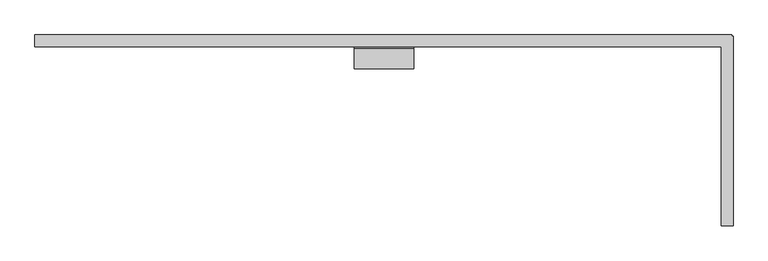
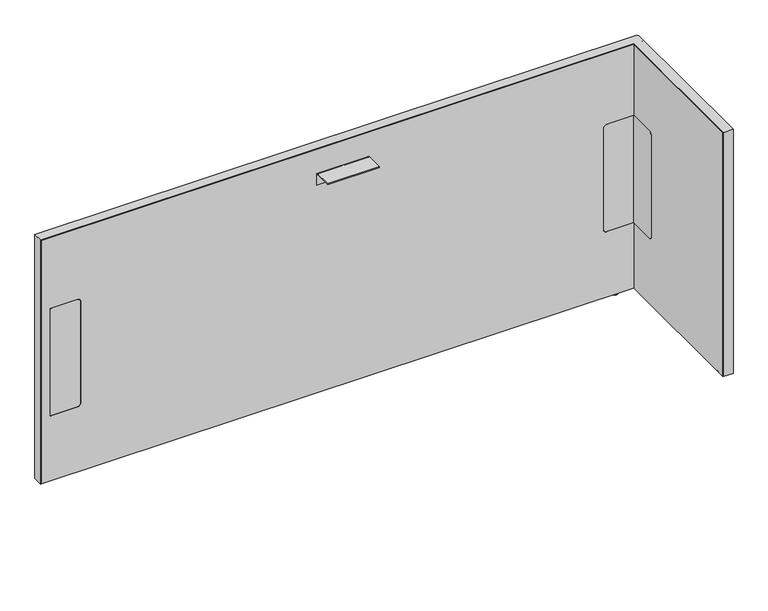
"""IFC4 building model written with IfcOpenShell, lengths in millimetres: furniture geometry, Steelcase - Answer Solution - Boundary Screen - L Return - Single Sided : 30H x 69W."""

import ifcopenshell
import ifcopenshell.guid

model = None  # the IFC model being written
_history = None  # IfcOwnerHistory: only IFC2X3 demands one
_inside = {}  # id of a spatial element -> (the spatial element, [elements in it])
_under = {}  # id of a project, library or spatial element -> (it, [spatial elements below it])
_declared = {}  # id of a project -> (the project, [libraries it declares])
_typed = {}  # id of a type object -> (the type object, [elements of that type])
_made_of = {}  # id of a material, layer set ... -> (it, [elements and type objects made of it])


def new_model(schema):
    """Start an empty IFC model of exactly this schema.

    Asked for "IFC4X3", IfcOpenShell would pick the latest addendum, in which some entities
    have other attributes; the version numbers below select the first issue.
    IFC2X3 requires an IfcOwnerHistory on every rooted entity: one is made here for all.
    """
    global model, _history
    if schema == "IFC4X3":
        model = ifcopenshell.file(schema_version=(4, 3, 0, 0))
    else:
        model = ifcopenshell.file(schema=schema)
    _inside.clear()
    _under.clear()
    _declared.clear()
    _typed.clear()
    _made_of.clear()
    _history = None
    if model.schema == "IFC2X3":
        org = make("IfcOrganization", Name="unknown")
        user = make(
            "IfcPersonAndOrganization",
            ThePerson=make("IfcPerson", FamilyName="unknown"),
            TheOrganization=org,
        )
        app = make(
            "IfcApplication",
            ApplicationDeveloper=org,
            Version="unknown",
            ApplicationFullName="unknown",
            ApplicationIdentifier="unknown",
        )
        _history = make(
            "IfcOwnerHistory",
            OwningUser=user,
            OwningApplication=app,
            ChangeAction="ADDED",
            CreationDate=0,
        )
    return model


def make(cls, **values):
    """One entity of the class cls with the attributes given. An attribute that is None is left unset."""
    return model.create_entity(
        cls, **{name: value for name, value in values.items() if value is not None}
    )


def rooted(cls, **values):
    """An entity with a GlobalId (a new one), such as an element, a storey or a relation."""
    return make(cls, GlobalId=ifcopenshell.guid.new(), OwnerHistory=_history, **values)


def si_unit(unit_type, name, prefix=None):
    """IfcSIUnit, for example si_unit("LENGTHUNIT", "METRE", prefix="MILLI")."""
    return make("IfcSIUnit", UnitType=unit_type, Prefix=prefix, Name=name)


def assignment(units):
    """IfcUnitAssignment: the units of a project."""
    return None if units is None else make("IfcUnitAssignment", Units=units)


def point(xyz):
    """IfcCartesianPoint."""
    return None if xyz is None else make("IfcCartesianPoint", Coordinates=xyz)


def direction(xyz):
    """IfcDirection."""
    return None if xyz is None else make("IfcDirection", DirectionRatios=xyz)


def frame(location, z_axis=None, x_axis=None):
    """IfcAxis2Placement3D, a coordinate frame: its origin and axes. An axis left out is left unset."""
    return make(
        "IfcAxis2Placement3D",
        Location=point(location),
        Axis=direction(z_axis),
        RefDirection=direction(x_axis),
    )


def frame_2d(location, x_axis=None):
    """IfcAxis2Placement2D, a coordinate frame in the plane: its origin and x axis."""
    return make(
        "IfcAxis2Placement2D", Location=point(location), RefDirection=direction(x_axis)
    )


def origin():
    """The frame at (0, 0, 0) with its axes left unset."""
    return frame((0.0, 0.0, 0.0))


def place(relative_to, where):
    """IfcLocalPlacement: puts the frame where relative to a parent placement (None: the world)."""
    return make(
        "IfcLocalPlacement", PlacementRelTo=relative_to, RelativePlacement=where
    )


def context(
    kind, dimensions, precision=None, world=None, true_north=None, identifier=None
):
    """IfcGeometricRepresentationContext, for example the 3D "Model" context."""
    return make(
        "IfcGeometricRepresentationContext",
        ContextIdentifier=identifier,
        ContextType=kind,
        CoordinateSpaceDimension=dimensions,
        Precision=precision,
        WorldCoordinateSystem=world,
        TrueNorth=true_north,
    )


def project(units=None, contexts=None):
    """IfcProject with its units and contexts."""
    return rooted(
        "IfcProject",
        Name="project",
        RepresentationContexts=contexts,
        UnitsInContext=assignment(units),
    )


def spatial(cls, under=None, at=None, **own):
    """A site, building, storey or space (cls), placed at a placement, below another one or the project."""
    s = rooted(cls, ObjectPlacement=at, **own)
    if under is not None:
        _under.setdefault(under.id(), (under, []))[1].append(s)
    return s


def polyline(points):
    """IfcPolyline through the points."""
    return make("IfcPolyline", Points=[point(p) for p in points])


def circle_curve(where, radius):
    """IfcCircle in the frame where."""
    return make("IfcCircle", Position=where, Radius=radius)


def ellipse_curve(where, semi_axis1, semi_axis2):
    """IfcEllipse in the frame where."""
    return make(
        "IfcEllipse", Position=where, SemiAxis1=semi_axis1, SemiAxis2=semi_axis2
    )


def trimmed(basis, trim1, trim2, sense, master):
    """IfcTrimmedCurve: the piece of a basis curve between two trims."""
    return make(
        "IfcTrimmedCurve",
        BasisCurve=basis,
        Trim1=trim1,
        Trim2=trim2,
        SenseAgreement=sense,
        MasterRepresentation=master,
    )


def segment(curve, same_sense, transition):
    """IfcCompositeCurveSegment."""
    return make(
        "IfcCompositeCurveSegment",
        Transition=transition,
        SameSense=same_sense,
        ParentCurve=curve,
    )


def composite_curve(segments, self_intersect=None):
    """IfcCompositeCurve: segments joined end to end."""
    return make("IfcCompositeCurve", Segments=segments, SelfIntersect=self_intersect)


def outline(outer, holes=None, kind="AREA"):
    """IfcArbitraryClosedProfileDef: a profile drawn as a closed curve; with holes, ...WithVoids."""
    if holes is None:
        return make("IfcArbitraryClosedProfileDef", ProfileType=kind, OuterCurve=outer)
    return make(
        "IfcArbitraryProfileDefWithVoids",
        ProfileType=kind,
        OuterCurve=outer,
        InnerCurves=holes,
    )


def extrude(swept, where, along, depth):
    """IfcExtrudedAreaSolid: the profile swept, set in the frame where, extruded along a direction by depth."""
    return make(
        "IfcExtrudedAreaSolid",
        SweptArea=swept,
        Position=where,
        ExtrudedDirection=direction(along),
        Depth=depth,
    )


def faces_of(points, faces, orient=None, outer=None):
    """IfcFace entities. A face is a list of loops; a loop is a list of indices into points, from 0.

    orient and outer hold one flag for each loop. By default every Orientation is true, the
    first loop of a face is its IfcFaceOuterBound and the others are IfcFaceBound.
    """
    made = []
    for i, loops in enumerate(faces):
        bounds = []
        for j, loop in enumerate(loops):
            is_outer = j == 0 if outer is None else outer[i][j]
            bounds.append(
                make(
                    "IfcFaceOuterBound" if is_outer else "IfcFaceBound",
                    Bound=make("IfcPolyLoop", Polygon=[points[k] for k in loop]),
                    Orientation=True if orient is None else orient[i][j],
                )
            )
        made.append(make("IfcFace", Bounds=bounds))
    return made


def faceted_brep(points, faces, orient=None, outer=None, voids=None):
    """IfcFacetedBrep: a solid bounded by flat faces; with voids (closed shells), ...WithVoids."""
    shared = [point(p) for p in points]
    hull = make("IfcClosedShell", CfsFaces=faces_of(shared, faces, orient, outer))
    if voids is None:
        return make("IfcFacetedBrep", Outer=hull)
    return make(
        "IfcFacetedBrepWithVoids",
        Outer=hull,
        Voids=[
            make(cls, CfsFaces=faces_of(shared, fs, o, b)) for cls, fs, o, b in voids
        ],
    )


def shape(context_of_items, identifier, shape_type, items):
    """IfcShapeRepresentation: the items that make up one representation, for example the "Body"."""
    return make(
        "IfcShapeRepresentation",
        ContextOfItems=context_of_items,
        RepresentationIdentifier=identifier,
        RepresentationType=shape_type,
        Items=items,
    )


def source(mapping_origin, context_of_items, identifier, shape_type, items):
    """IfcRepresentationMap: a shape defined once, which mapped items show again and again."""
    return make(
        "IfcRepresentationMap",
        MappingOrigin=mapping_origin,
        MappedRepresentation=shape(context_of_items, identifier, shape_type, items),
    )


def transform(
    local_origin,
    x_axis=None,
    y_axis=None,
    z_axis=None,
    scale=None,
    scale2=None,
    scale3=None,
    uniform=True,
):
    """IfcCartesianTransformationOperator3D, or its non-uniform kind. x_axis, y_axis, z_axis: its Axis1, 2, 3."""
    if uniform:
        return make(
            "IfcCartesianTransformationOperator3D",
            Axis1=direction(x_axis),
            Axis2=direction(y_axis),
            LocalOrigin=point(local_origin),
            Scale=scale,
            Axis3=direction(z_axis),
        )
    return make(
        "IfcCartesianTransformationOperator3DnonUniform",
        Axis1=direction(x_axis),
        Axis2=direction(y_axis),
        LocalOrigin=point(local_origin),
        Scale=scale,
        Axis3=direction(z_axis),
        Scale2=scale2,
        Scale3=scale3,
    )


def mapped(mapping_source, mapping_target):
    """IfcMappedItem: shows the shape of a source again, moved by a transform."""
    return make(
        "IfcMappedItem", MappingSource=mapping_source, MappingTarget=mapping_target
    )


def made_of(thing, what):
    """Note that an element or type object is made of a material, layer set ...; save() writes the relation."""
    if what is not None:
        _made_of.setdefault(what.id(), (what, []))[1].append(thing)
    return thing


def element(
    cls,
    number,
    at=None,
    inside=None,
    cuts=None,
    type_object=None,
    material=None,
    context=None,
    identifier="Body",
    shape_type=None,
    held_by="IfcProductDefinitionShape",
    body=None,
    shapes=None,
    **own,
):
    """One element of the class cls, such as IfcWall. Its Tag is "e" and its number.

    at: its placement. inside: the storey or other place that contains it. cuts: it is an
    opening in that element (IfcRelVoidsElement). A single representation is given by context,
    identifier, shape_type and body (its items); several are given by shapes. held_by: the class
    of the entity that holds the representations. save() writes the other relations.
    """
    e = rooted(cls, Tag="e%d" % number, ObjectPlacement=at, **own)
    if body is not None:
        shapes = [shape(context, identifier, shape_type, body)]
    if shapes is not None:
        e.Representation = make(held_by, Representations=shapes)
    if inside is not None:
        _inside.setdefault(inside.id(), (inside, []))[1].append(e)
    if cuts is not None:
        rooted(
            "IfcRelVoidsElement", RelatingBuildingElement=cuts, RelatedOpeningElement=e
        )
    if type_object is not None:
        _typed.setdefault(type_object.id(), (type_object, []))[1].append(e)
    return made_of(e, material)


def aggregate(whole, parts):
    """IfcRelAggregates: a whole, such as a stair, and the parts it consists of."""
    return rooted("IfcRelAggregates", RelatingObject=whole, RelatedObjects=parts)


def save(model, path):
    """Write the relations noted so far, then the file.

    IfcRelAggregates (storeys below a building ...), IfcRelContainedInSpatialStructure (elements
    in a storey), IfcRelDefinesByType, IfcRelAssociatesMaterial and IfcRelDeclares: one each for
    every whole, place, type object, material and project.
    """
    for whole, parts in _under.values():
        aggregate(whole, parts)
    for where, things in _inside.values():
        rooted(
            "IfcRelContainedInSpatialStructure",
            RelatedElements=things,
            RelatingStructure=where,
        )
    for kind, things in _typed.values():
        rooted("IfcRelDefinesByType", RelatedObjects=things, RelatingType=kind)
    for what, things in _made_of.values():
        rooted("IfcRelAssociatesMaterial", RelatedObjects=things, RelatingMaterial=what)
    for by, libraries in _declared.values():
        rooted("IfcRelDeclares", RelatingContext=by, RelatedDefinitions=libraries)
    model.write(path)


def plane_surface(at):
    """IfcPlane: the flat surface through the origin of the frame at, square to its z axis."""
    return make("IfcPlane", Position=at)


def cylinder_surface(at, radius):
    """IfcCylindricalSurface: all points at the distance radius from the z axis of the frame at."""
    return make("IfcCylindricalSurface", Position=at, Radius=radius)


def revolved_surface(curve, axis_point, axis_direction):
    """IfcSurfaceOfRevolution: the curve turned about the line through axis_point along axis_direction."""
    return make(
        "IfcSurfaceOfRevolution",
        SweptCurve=make("IfcArbitraryOpenProfileDef", ProfileType="CURVE", Curve=curve),
        AxisPosition=make("IfcAxis1Placement", Location=point(axis_point), Axis=direction(axis_direction)),
    )


def advanced_brep(points, edges, surfaces, faces):
    """IfcAdvancedBrep: a solid bounded by faces that lie on surfaces and meet in shared edges.

    An edge is (start, end): straight between two places in points (the first is 0);
    or (start, end, curve); or (start, end, curve, False) where it runs against its curve.
    A face is (place in surfaces, loops), or (place, loops, False) where it looks against
    its surface's normal. A loop lists edges by number (the first is 1), with a minus sign
    where the edge is run from its end to its start. The first loop is the outer one.
    """
    corners = [point(p) for p in points]
    vertices = [make("IfcVertexPoint", VertexGeometry=c) for c in corners]
    made = []
    for start, end, *more in edges:
        made.append(
            make(
                "IfcEdgeCurve",
                EdgeStart=vertices[start],
                EdgeEnd=vertices[end],
                EdgeGeometry=more[0] if more else make("IfcPolyline", Points=[corners[start], corners[end]]),
                SameSense=more[1] if len(more) > 1 else True,
            )
        )
    hull = []
    for where, loops, *sense in faces:
        bounds = []
        for j, loop in enumerate(loops):
            ring = [make("IfcOrientedEdge", EdgeElement=made[abs(k) - 1], Orientation=k > 0) for k in loop]
            bounds.append(
                make(
                    "IfcFaceOuterBound" if j == 0 else "IfcFaceBound",
                    Bound=make("IfcEdgeLoop", EdgeList=ring),
                    Orientation=True,
                )
            )
        hull.append(make("IfcAdvancedFace", Bounds=bounds, FaceSurface=surfaces[where], SameSense=sense[0] if sense else True))
    return make("IfcAdvancedBrep", Outer=make("IfcClosedShell", CfsFaces=hull))


def furniture_c9c4f72e(model_context):
    return source(origin(), model_context, "Body", "SolidModel", [
        extrude(outline(composite_curve([segment(polyline([(-109.3501471, 549.6162029), (-29.0550397, 549.6162029), (-29.0550397, 213.7762137), (-109.3501471, 213.7762137)]), True, "CONTINUOUS"), segment(trimmed(circle_curve(frame_2d((-109.3501471, 223.9362137)), 10.16), [point((-109.3501471, 213.7762137))], [point((-119.5101471, 223.9362137))], False, "CARTESIAN"), True, "CONTINUOUS"), segment(polyline([(-119.5101471, 223.9362137), (-119.5101471, 539.4562029)]), True, "CONTINUOUS"), segment(trimmed(circle_curve(frame_2d((-109.3501471, 539.4562029)), 10.16), [point((-119.5101471, 539.4562029))], [point((-109.3501471, 549.6162029))], False, "CARTESIAN"), True, "CONTINUOUS")], self_intersect=False)), frame((1982.4191891, 0.0, 0.0), z_axis=(1.0, 0.0, 0.0), x_axis=(0.0, 1.0, 0.0)), (0.0, 0.0, 1.0), 0.6401544),
        advanced_brep(
        [(1997.2672074, -448.0136072, 0.0), (2004.2216144, -448.0136072, 0.0), (1990.3128003, -448.0136072, 0.0), (2005.6762685, -448.0136072, 1.2700001), (1988.8581463, -448.0136072, 1.2700001), (2005.6762685, -448.0136072, 2.9673238), (1988.8581463, -448.0136072, 2.9673238), (2006.6427877, -448.0136072, 2.9673238), (1987.891627, -448.0136072, 2.9673238), (2006.6427877, -448.0136072, 9.9059849), (1987.891627, -448.0136072, 9.9059849), (1997.2672074, -448.0136072, 9.9059849)],
        [
            (0, 1),
            (1, 2, circle_curve(frame((1997.2672074, -448.0136072, 0.0), z_axis=(0.0, 0.0, -1.0), x_axis=(1.0, 0.0, 0.0)), 6.9544071)),
            (2, 0),
            (2, 1, circle_curve(frame((1997.2672074, -448.0136072, 0.0), z_axis=(0.0, 0.0, -1.0), x_axis=(1.0, 0.0, 0.0)), 6.9544071)),
            (1, 3, circle_curve(frame((2004.3945484, -448.0136072, 1.2700001), z_axis=(0.0, -1.0, 0.0), x_axis=(0.0, 0.0, 1.0)), 1.2817201)),
            (3, 4, circle_curve(frame((1997.2672074, -448.0136072, 1.2700001), z_axis=(0.0, 0.0, -1.0), x_axis=(1.0, 0.0, 0.0)), 8.4090611)),
            (4, 2, circle_curve(frame((1990.1398663, -448.0136072, 1.2700001), z_axis=(0.0, -1.0, 0.0), x_axis=(0.0, 0.0, 1.0)), 1.2817201)),
            (4, 3, circle_curve(frame((1997.2672074, -448.0136072, 1.2700001), z_axis=(0.0, 0.0, -1.0), x_axis=(1.0, 0.0, 0.0)), 8.4090611)),
            (3, 5),
            (5, 6, circle_curve(frame((1997.2672074, -448.0136072, 2.9673238), z_axis=(0.0, 0.0, -1.0), x_axis=(1.0, 0.0, 0.0)), 8.4090611)),
            (6, 4),
            (6, 5, circle_curve(frame((1997.2672074, -448.0136072, 2.9673238), z_axis=(0.0, 0.0, -1.0), x_axis=(1.0, 0.0, 0.0)), 8.4090611)),
            (5, 7),
            (7, 8, circle_curve(frame((1997.2672074, -448.0136072, 2.9673238), z_axis=(0.0, 0.0, -1.0), x_axis=(1.0, 0.0, 0.0)), 9.3755804)),
            (8, 6),
            (8, 7, circle_curve(frame((1997.2672074, -448.0136072, 2.9673238), z_axis=(0.0, 0.0, -1.0), x_axis=(1.0, 0.0, 0.0)), 9.3755804)),
            (7, 9),
            (9, 10, circle_curve(frame((1997.2672074, -448.0136072, 9.9059849), z_axis=(0.0, 0.0, -1.0), x_axis=(1.0, 0.0, 0.0)), 9.3755804)),
            (10, 8),
            (10, 9, circle_curve(frame((1997.2672074, -448.0136072, 9.9059849), z_axis=(0.0, 0.0, -1.0), x_axis=(1.0, 0.0, 0.0)), 9.3755804)),
            (9, 11),
            (11, 10),
        ],
        [
            plane_surface(frame((1997.2672074, -448.0136072, 0.0), z_axis=(0.0, 0.0, -1.0), x_axis=(1.0, 0.0, 0.0))),
            revolved_surface(trimmed(ellipse_curve(frame((2004.3945484, -448.0136072, 1.2700001), z_axis=(0.0, 1.0, 0.0), x_axis=(0.0, 0.0, 1.0)), 1.2817201, 1.2817201), [point((2005.6762685, -448.0136072, 1.2700001))], [point((2004.2216144, -448.0136072, 0.0))], True, "CARTESIAN"), (1997.2672074, -448.0136072, 9.9059849), (0.0, 0.0, -1.0)),
            cylinder_surface(frame((1997.2672074, -448.0136072, 9.9059849), z_axis=(0.0, 0.0, -1.0), x_axis=(1.0, 0.0, 0.0)), 8.4090611),
            plane_surface(frame((1997.2672074, -448.0136072, 2.9673238), z_axis=(0.0, 0.0, -1.0), x_axis=(1.0, 0.0, 0.0))),
            cylinder_surface(frame((1997.2672074, -448.0136072, 9.9059849), z_axis=(0.0, 0.0, -1.0), x_axis=(1.0, 0.0, 0.0)), 9.3755804),
            plane_surface(frame((1997.2672074, -448.0136072, 9.9059849), z_axis=(0.0, 0.0, 1.0), x_axis=(1.0, 0.0, 0.0))),
        ],
        [
            (0, [[1, 2, 3]]),
            (0, [[-3, 4, -1]]),
            (1, [[-2, 5, 6, 7]]),
            (1, [[-4, -7, 8, -5]]),
            (2, [[-6, 9, 10, 11]]),
            (2, [[-8, -11, 12, -9]]),
            (3, [[-10, 13, 14, 15]]),
            (3, [[-12, -15, 16, -13]]),
            (4, [[-14, 17, 18, 19]]),
            (4, [[-16, -19, 20, -17]]),
            (5, [[-18, 21, 22]]),
            (5, [[-20, -22, -21]]),
        ],
    ),
        faceted_brep([(2008.8531179, 0.0, 772.922), (2008.8531179, 0.0, 9.9059849), (2007.8621491, 0.0, 9.9059849), (2007.8621491, 0.0, 771.942118), (230.8097779, 0.0, 771.942118), (230.8097779, 0.0, 9.9059849), (229.8191891, 0.0, 9.9059849), (229.8191891, 0.0, 772.922), (229.8191891, -29.6898332, 772.922), (229.8191891, -29.6898332, 9.9059849), (230.8097779, -29.6898332, 9.9059849), (230.8097779, -29.6898332, 771.942118), (1982.4191891, -29.6898332, 771.942118), (1982.4191891, -29.6898332, 772.922), (2007.8621491, -29.6898332, 771.942118), (2007.8621491, -29.6898332, 9.9059849), (2008.8531179, -29.6898332, 9.9059849), (2008.8531179, -29.6898332, 771.942118), (2008.8531179, -3.2625916, 772.922), (2008.8531179, -3.2625916, 9.9059849), (2008.8531179, -4.252647, 9.9059849), (2008.8531179, -4.252647, 771.942118), (2012.1152256, -3.2625916, 9.9059849), (2012.1152256, -4.252647, 9.9059849), (2007.8621491, -4.252647, 9.9059849), (1982.4191891, -4.252647, 9.9059849), (1982.4191891, -3.2625916, 9.9059849), (2007.8621491, -3.2625916, 9.9059849), (1982.4191891, -486.8898332, 772.922), (2012.1152256, -486.8898332, 772.922), (2012.1152256, -3.2625916, 772.922), (2007.8621491, -3.2625916, 771.942118), (2007.8621491, -4.252647, 771.942118), (1982.4191891, -3.2625916, 771.942118), (1982.4191891, -4.252647, 771.942118), (2012.1152256, -4.252647, 771.942118), (2012.1152256, -485.899196, 771.942118), (1982.4191891, -485.899196, 771.942118), (1982.4191891, -485.899196, 9.9059849), (1982.4191891, -486.8898332, 9.9059849), (2012.1152256, -486.8898332, 9.9059849), (2012.1152256, -485.899196, 9.9059849)], [[[0, 1, 2, 3, 4, 5, 6, 7]], [[8, 9, 10, 11, 12, 13]], [[14, 15, 16, 17]], [[1, 0, 18, 19]], [[17, 16, 20, 21]], [[2, 1, 19, 22, 23, 20, 16, 15, 24, 25, 26, 27]], [[7, 6, 9, 8]], [[0, 7, 8, 13, 28, 29, 30, 18]], [[3, 2, 27, 31]], [[15, 14, 32, 24]], [[4, 3, 31, 33, 34, 32, 14, 17, 21, 35, 36, 37, 12, 11]], [[5, 4, 11, 10]], [[6, 5, 10, 9]], [[26, 25, 34, 33]], [[37, 38, 39, 28, 13, 12]], [[29, 40, 41, 36, 35, 23, 22, 30]], [[27, 26, 33, 31]], [[30, 22, 19, 18]], [[34, 25, 24, 32]], [[23, 35, 21, 20]], [[38, 37, 36, 41]], [[39, 38, 41, 40]], [[28, 39, 40, 29]]]),
        extrude(outline(composite_curve([segment(polyline([(-86.8398151, 696.4680019), (-86.8398151, 698.5), (-34.9450855, 698.5)]), True, "CONTINUOUS"), segment(trimmed(circle_curve(frame_2d((-34.9450855, 693.2447477)), 5.2552523), [point((-34.9450855, 698.5))], [point((-29.6898332, 693.2447477))], False, "CARTESIAN"), True, "CONTINUOUS"), segment(polyline([(-29.6898332, 693.2447477), (-29.6898332, 660.4), (-31.7218162, 660.4), (-31.7218162, 693.0058743)]), True, "CONTINUOUS"), segment(trimmed(circle_curve(frame_2d((-35.1839438, 693.0058743)), 3.4621276), [point((-31.7218162, 693.0058743))], [point((-35.1839438, 696.4680019))], True, "CARTESIAN"), True, "CONTINUOUS"), segment(polyline([(-35.1839438, 696.4680019), (-86.8398151, 696.4680019)]), True, "CONTINUOUS")], self_intersect=False)), frame((1044.7685899, 0.0, 0.0), z_axis=(1.0, 0.0, 0.0), x_axis=(0.0, 1.0, 0.0)), (0.0, 0.0, 1.0), 152.4000969),
        advanced_brep(
        [(1934.9246853, -23.7588726, 9.9059849), (1934.9246853, -5.9309607, 9.9059849), (1934.9246853, -14.8449166, 9.9059849), (1934.9246853, -23.7588726, 2.9673238), (1934.9246853, -5.9309607, 2.9673238), (1934.9246853, -22.7915354, 2.9673238), (1934.9246853, -6.8982978, 2.9673238), (1934.9246853, -22.7915354, 1.6569081), (1934.9246853, -6.8982978, 1.6569081), (1934.9246853, -21.1346274, 0.0), (1934.9246853, -8.5552059, 0.0), (1934.9246853, -14.8449166, 0.0)],
        [
            (0, 1, circle_curve(frame((1934.9246853, -14.8449166, 9.9059849), z_axis=(0.0, 0.0, 1.0), x_axis=(0.0, 1.0, 0.0)), 8.913956)),
            (1, 2),
            (2, 0),
            (1, 0, circle_curve(frame((1934.9246853, -14.8449166, 9.9059849), z_axis=(0.0, 0.0, 1.0), x_axis=(0.0, 1.0, 0.0)), 8.913956)),
            (3, 4, circle_curve(frame((1934.9246853, -14.8449166, 2.9673238), z_axis=(0.0, 0.0, 1.0), x_axis=(0.0, 1.0, 0.0)), 8.913956)),
            (4, 1),
            (0, 3),
            (4, 3, circle_curve(frame((1934.9246853, -14.8449166, 2.9673238), z_axis=(0.0, 0.0, 1.0), x_axis=(0.0, 1.0, 0.0)), 8.913956)),
            (5, 6, circle_curve(frame((1934.9246853, -14.8449166, 2.9673238), z_axis=(0.0, 0.0, 1.0), x_axis=(0.0, 1.0, 0.0)), 7.9466188)),
            (6, 4),
            (3, 5),
            (6, 5, circle_curve(frame((1934.9246853, -14.8449166, 2.9673238), z_axis=(0.0, 0.0, 1.0), x_axis=(0.0, 1.0, 0.0)), 7.9466188)),
            (7, 8, circle_curve(frame((1934.9246853, -14.8449166, 1.6569081), z_axis=(0.0, 0.0, 1.0), x_axis=(0.0, 1.0, 0.0)), 7.9466188)),
            (8, 6),
            (5, 7),
            (8, 7, circle_curve(frame((1934.9246853, -14.8449166, 1.6569081), z_axis=(0.0, 0.0, 1.0), x_axis=(0.0, 1.0, 0.0)), 7.9466188)),
            (9, 10, circle_curve(frame((1934.9246853, -14.8449166, 0.0), z_axis=(0.0, 0.0, 1.0), x_axis=(0.0, 1.0, 0.0)), 6.2897107)),
            (10, 8, circle_curve(frame((1934.9246853, -8.5552059, 1.6569081), z_axis=(1.0, 0.0, 0.0), x_axis=(0.0, 1.0, 0.0)), 1.6569081)),
            (7, 9, circle_curve(frame((1934.9246853, -21.1346274, 1.6569081), z_axis=(1.0, 0.0, 0.0), x_axis=(0.0, -1.0, 0.0)), 1.6569081)),
            (10, 9, circle_curve(frame((1934.9246853, -14.8449166, 0.0), z_axis=(0.0, 0.0, 1.0), x_axis=(0.0, 1.0, 0.0)), 6.2897107)),
            (11, 10),
            (9, 11),
        ],
        [
            plane_surface(frame((1934.9246853, -14.8449166, 9.9059849), z_axis=(0.0, 0.0, 1.0), x_axis=(0.0, 1.0, 0.0))),
            cylinder_surface(frame((1934.9246853, -14.8449166, 9.9059849), z_axis=(0.0, 0.0, -1.0), x_axis=(0.0, 1.0, 0.0)), 8.913956),
            plane_surface(frame((1934.9246853, -14.8449166, 2.9673238), z_axis=(0.0, 0.0, -1.0), x_axis=(0.0, 1.0, 0.0))),
            cylinder_surface(frame((1934.9246853, -14.8449166, 9.9059849), z_axis=(0.0, 0.0, -1.0), x_axis=(0.0, 1.0, 0.0)), 7.9466188),
            revolved_surface(trimmed(ellipse_curve(frame((1934.9246853, -8.5552059, 1.6569081), z_axis=(-1.0, 0.0, 0.0), x_axis=(0.0, 1.0, 0.0)), 1.6569081, 1.6569081), [point((1934.9246853, -6.8982978, 1.6569081))], [point((1934.9246853, -8.5552059, 0.0))], True, "CARTESIAN"), (1934.9246853, -14.8449166, 9.9059849), (0.0, 0.0, -1.0)),
            plane_surface(frame((1934.9246853, -14.8449166, 0.0), z_axis=(0.0, 0.0, -1.0), x_axis=(0.0, 1.0, 0.0))),
        ],
        [
            (0, [[1, 2, 3]]),
            (0, [[4, -3, -2]]),
            (1, [[5, 6, -1, 7]]),
            (1, [[8, -7, -4, -6]]),
            (2, [[9, 10, -5, 11]]),
            (2, [[12, -11, -8, -10]]),
            (3, [[13, 14, -9, 15]]),
            (3, [[16, -15, -12, -14]]),
            (4, [[17, 18, -13, 19]]),
            (4, [[20, -19, -16, -18]]),
            (5, [[21, -17, 22]]),
            (5, [[-22, -20, -21]]),
        ],
    ),
        advanced_brep(
        [(230.8097779, 0.0, 771.942118), (2007.8621491, 0.0, 771.942118), (2007.8621491, 0.0, 9.9059849), (230.8097779, 0.0, 9.9059849), (347.9483813, -29.0550397, 539.4562029), (337.7883813, -29.0550397, 549.6162029), (258.1344836, -29.0550397, 549.6162029), (258.1344836, -29.0550397, 213.7762137), (337.7883813, -29.0550397, 213.7762137), (347.9483813, -29.0550397, 223.9362137), (1983.0593435, -29.0550397, 213.7762137), (1983.0593435, -29.0550397, 549.6162029), (1902.5109268, -29.0550397, 549.6162029), (1892.3509268, -29.0550397, 539.4562029), (1892.3509268, -29.0550397, 223.9362137), (1902.5109268, -29.0550397, 213.7762137), (230.8097779, -29.6898332, 771.942118), (230.8097779, -29.6898332, 9.9059849), (1982.4191891, -29.6898332, 9.9059849), (1982.4191891, -29.6898332, 213.7762137), (1902.5109268, -29.6898332, 213.7762137), (1892.3509268, -29.6898332, 223.9362137), (1892.3509268, -29.6898332, 539.4562029), (1902.5109268, -29.6898332, 549.6162029), (1982.4191891, -29.6898332, 549.6162029), (1982.4191891, -29.6898332, 771.942118), (337.7883813, -29.6898332, 549.6162029), (347.9483813, -29.6898332, 539.4562029), (347.9483813, -29.6898332, 223.9362137), (337.7883813, -29.6898332, 213.7762137), (258.1344836, -29.6898332, 213.7762137), (258.1344836, -29.6898332, 549.6162029), (2007.8621491, -4.252647, 9.9059849), (2012.1152256, -4.252647, 9.9059849), (2012.1152256, -485.899196, 9.9059849), (1982.4191891, -485.899196, 9.9059849), (2007.8621491, -4.252647, 771.942118), (1982.4191891, -485.899196, 771.942118), (2012.1152256, -485.899196, 771.942118), (2012.1152256, -4.252647, 771.942118), (1983.0593435, -109.3501471, 549.6162029), (1982.4191891, -109.3501471, 549.6162029), (1983.0593435, -109.3501471, 213.7762137), (1983.0593435, -119.5101471, 223.9362137), (1983.0593435, -119.5101471, 539.4562029), (1982.4191891, -109.3501471, 213.7762137), (1982.4191891, -119.5101471, 539.4562029), (1982.4191891, -119.5101471, 223.9362137)],
        [
            (0, 1),
            (1, 2),
            (2, 3),
            (3, 0),
            (4, 5, circle_curve(frame((337.7883813, -29.0550397, 539.4562029), z_axis=(0.0, -1.0, 0.0), x_axis=(0.0, 0.0, 1.0)), 10.16)),
            (5, 6),
            (6, 7),
            (7, 8),
            (8, 9, circle_curve(frame((337.7883813, -29.0550397, 223.9362137), z_axis=(0.0, -1.0, 0.0), x_axis=(0.0, 0.0, 1.0)), 10.16)),
            (9, 4),
            (10, 11),
            (11, 12),
            (12, 13, circle_curve(frame((1902.5109268, -29.0550397, 539.4562029), z_axis=(0.0, -1.0, 0.0), x_axis=(0.0, 0.0, 1.0)), 10.16)),
            (13, 14),
            (14, 15, circle_curve(frame((1902.5109268, -29.0550397, 223.9362137), z_axis=(0.0, -1.0, 0.0), x_axis=(0.0, 0.0, 1.0)), 10.16)),
            (15, 10),
            (16, 17),
            (17, 18),
            (18, 19),
            (19, 20),
            (20, 21, circle_curve(frame((1902.5109268, -29.6898332, 223.9362137), z_axis=(0.0, 1.0, 0.0), x_axis=(0.0, 0.0, 1.0)), 10.16)),
            (21, 22),
            (22, 23, circle_curve(frame((1902.5109268, -29.6898332, 539.4562029), z_axis=(0.0, 1.0, 0.0), x_axis=(0.0, 0.0, 1.0)), 10.16)),
            (23, 24),
            (24, 25),
            (25, 16),
            (26, 27, circle_curve(frame((337.7883813, -29.6898332, 539.4562029), z_axis=(0.0, 1.0, 0.0), x_axis=(0.0, 0.0, 1.0)), 10.16)),
            (27, 28),
            (28, 29, circle_curve(frame((337.7883813, -29.6898332, 223.9362137), z_axis=(0.0, 1.0, 0.0), x_axis=(0.0, 0.0, 1.0)), 10.16)),
            (29, 30),
            (30, 31),
            (31, 26),
            (16, 0),
            (3, 17),
            (2, 32),
            (32, 33),
            (33, 34),
            (34, 35),
            (35, 18),
            (1, 36),
            (36, 32),
            (25, 37),
            (37, 38),
            (38, 39),
            (39, 36),
            (26, 5),
            (4, 27),
            (9, 28),
            (8, 29),
            (7, 30),
            (6, 31),
            (11, 40),
            (40, 41),
            (41, 24),
            (23, 12),
            (42, 43, circle_curve(frame((1983.0593435, -109.3501471, 223.9362137), z_axis=(-1.0, 0.0, 0.0), x_axis=(0.0, 1.0, 0.0)), 10.16)),
            (43, 44),
            (44, 40, circle_curve(frame((1983.0593435, -109.3501471, 539.4562029), z_axis=(-1.0, 0.0, 0.0), x_axis=(0.0, 1.0, 0.0)), 10.16)),
            (10, 42),
            (15, 20),
            (19, 45),
            (45, 42),
            (14, 21),
            (13, 22),
            (35, 37),
            (41, 46, circle_curve(frame((1982.4191891, -109.3501471, 539.4562029), z_axis=(1.0, 0.0, 0.0), x_axis=(0.0, 1.0, 0.0)), 10.16)),
            (46, 47),
            (47, 45, circle_curve(frame((1982.4191891, -109.3501471, 223.9362137), z_axis=(1.0, 0.0, 0.0), x_axis=(0.0, 1.0, 0.0)), 10.16)),
            (38, 34),
            (33, 39),
            (44, 46),
            (43, 47),
        ],
        [
            plane_surface(frame((347.9483813, 0.0, 549.6162029), z_axis=(0.0, 1.0, 0.0), x_axis=(0.0, 0.0, -1.0))),
            plane_surface(frame((347.9483813, -29.0550397, 549.6162029), z_axis=(0.0, -1.0, 0.0), x_axis=(0.0, 0.0, 1.0))),
            plane_surface(frame((2007.8621491, -29.6898332, 771.942118), z_axis=(0.0, -1.0, 0.0), x_axis=(-1.0, 0.0, 0.0))),
            plane_surface(frame((230.8097779, 0.0, 9.9059849), z_axis=(-1.0, 0.0, 0.0), x_axis=(0.0, -1.0, 0.0))),
            plane_surface(frame((2007.8621491, 0.0, 9.9059849), z_axis=(0.0, 0.0, -1.0), x_axis=(0.0, -1.0, 0.0))),
            plane_surface(frame((2007.8621491, 0.0, 771.942118), z_axis=(1.0, 0.0, 0.0), x_axis=(0.0, -1.0, 0.0))),
            plane_surface(frame((230.8097779, 0.0, 771.942118), z_axis=(0.0, 0.0, 1.0), x_axis=(0.0, -1.0, 0.0))),
            revolved_surface(polyline([(337.7883813, -29.6898332, 549.6162029), (337.7883813, -29.0550397, 549.6162029)]), (337.7883813, -29.6898332, 539.4562029), (0.0, -1.0, 0.0)),
            plane_surface(frame((347.9483813, 0.0, 223.9362137), z_axis=(-1.0, 0.0, 0.0), x_axis=(0.0, -1.0, 0.0))),
            revolved_surface(polyline([(337.7883813, -29.6898332, 234.0962137), (337.7883813, -29.0550397, 234.0962137)]), (337.7883813, -29.6898332, 223.9362137), (0.0, -1.0, 0.0)),
            plane_surface(frame((258.1344836, 0.0, 213.7762137), z_axis=(0.0, 0.0, 1.0), x_axis=(0.0, -1.0, 0.0))),
            plane_surface(frame((258.1344836, 0.0, 549.6162029), z_axis=(1.0, 0.0, 0.0), x_axis=(0.0, -1.0, 0.0))),
            plane_surface(frame((337.7883813, 0.0, 549.6162029), z_axis=(0.0, 0.0, -1.0), x_axis=(0.0, -1.0, 0.0))),
            plane_surface(frame((1983.0593435, 0.0, 549.6162029), z_axis=(0.0, 0.0, -1.0), x_axis=(0.0, -1.0, 0.0))),
            plane_surface(frame((1983.0593435, 0.0, 213.7762137), z_axis=(-1.0, 0.0, 0.0), x_axis=(0.0, -1.0, 0.0))),
            plane_surface(frame((1902.5109268, 0.0, 213.7762137), z_axis=(0.0, 0.0, 1.0), x_axis=(0.0, -1.0, 0.0))),
            revolved_surface(polyline([(1902.5109268, -29.6898332, 234.0962137), (1902.5109268, -29.0550397, 234.0962137)]), (1902.5109268, -29.6898332, 223.9362137), (0.0, -1.0, 0.0)),
            plane_surface(frame((1892.3509268, 0.0, 539.4562029), z_axis=(1.0, 0.0, 0.0), x_axis=(0.0, -1.0, 0.0))),
            revolved_surface(polyline([(1902.5109268, -29.6898332, 549.6162029), (1902.5109268, -29.0550397, 549.6162029)]), (1902.5109268, -29.6898332, 539.4562029), (0.0, -1.0, 0.0)),
            plane_surface(frame((1982.4191891, -485.899196, 771.942118), z_axis=(-1.0, 0.0, 0.0), x_axis=(0.0, 0.0, 1.0))),
            plane_surface(frame((2012.1152256, -485.899196, 771.942118), z_axis=(1.0, 0.0, 0.0), x_axis=(0.0, 0.0, -1.0))),
            plane_surface(frame((2012.1152256, -4.252647, 9.9059849), z_axis=(0.0, 1.0, 0.0), x_axis=(-1.0, 0.0, 0.0))),
            plane_surface(frame((2012.1152256, -485.899196, 771.942118), z_axis=(0.0, -1.0, 0.0), x_axis=(-1.0, 0.0, 0.0))),
            revolved_surface(polyline([(1982.4191891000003, -99.1901471, 539.4562029), (1983.0593435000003, -99.1901471, 539.4562029)]), (-340.6902705, -109.3501471, 539.4562029), (-1.0, 0.0, 0.0)),
            plane_surface(frame((2012.1152256, -119.5101471, 223.9362137), z_axis=(0.0, 1.0, 0.0), x_axis=(-1.0, 0.0, 0.0))),
            revolved_surface(polyline([(1982.4191891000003, -99.1901471, 223.9362137), (1983.0593435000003, -99.1901471, 223.9362137)]), (-340.6902705, -109.3501471, 223.9362137), (-1.0, 0.0, 0.0)),
        ],
        [
            (0, [[1, 2, 3, 4]]),
            (1, [[5, 6, 7, 8, 9, 10]]),
            (1, [[11, 12, 13, 14, 15, 16]]),
            (2, [[17, 18, 19, 20, 21, 22, 23, 24, 25, 26], [27, 28, 29, 30, 31, 32]]),
            (3, [[-17, 33, -4, 34]]),
            (4, [[-3, 35, 36, 37, 38, 39, -18, -34]]),
            (5, [[-2, 40, 41, -35]]),
            (6, [[-1, -33, -26, 42, 43, 44, 45, -40]]),
            (7, [[-27, 46, -5, 47]]),
            (8, [[-28, -47, -10, 48]]),
            (9, [[-29, -48, -9, 49]]),
            (10, [[-30, -49, -8, 50]]),
            (11, [[-31, -50, -7, 51]]),
            (12, [[-32, -51, -6, -46]]),
            (13, [[52, 53, 54, -24, 55, -12]]),
            (14, [[56, 57, 58, -52, -11, 59]]),
            (15, [[-59, -16, 60, -20, 61, 62]]),
            (16, [[-21, -60, -15, 63]]),
            (17, [[-22, -63, -14, 64]]),
            (18, [[-23, -64, -13, -55]]),
            (19, [[65, -42, -25, -54, 66, 67, 68, -61, -19, -39]]),
            (20, [[69, -37, 70, -44]]),
            (21, [[-70, -36, -41, -45]]),
            (22, [[-65, -38, -69, -43]]),
            (23, [[-66, -53, -58, 71]]),
            (24, [[-67, -71, -57, 72]]),
            (25, [[-68, -72, -56, -62]]),
        ],
    ),
        extrude(outline(composite_curve([segment(polyline([(549.6162029, 337.7883813), (549.6162029, 258.1344836), (213.7762137, 258.1344836), (213.7762137, 337.7883813)]), True, "CONTINUOUS"), segment(trimmed(circle_curve(frame_2d((223.9362137, 337.7883813)), 10.16), [point((213.7762137, 337.7883813))], [point((223.9362137, 347.9483813))], False, "CARTESIAN"), True, "CONTINUOUS"), segment(polyline([(223.9362137, 347.9483813), (539.4562029, 347.9483813)]), True, "CONTINUOUS"), segment(trimmed(circle_curve(frame_2d((539.4562029, 337.7883813)), 10.16), [point((539.4562029, 347.9483813))], [point((549.6162029, 337.7883813))], False, "CARTESIAN"), True, "CONTINUOUS")], self_intersect=False)), frame((0.0, -29.6898332, 0.0), z_axis=(0.0, 1.0, 0.0), x_axis=(0.0, 0.0, 1.0)), (0.0, 0.0, 1.0), 0.6347935),
        extrude(outline(composite_curve([segment(trimmed(circle_curve(frame_2d((539.4562029, 1902.5109268)), 10.16), [point((549.6162029, 1902.5109268))], [point((539.4562029, 1892.3509268))], False, "CARTESIAN"), True, "CONTINUOUS"), segment(polyline([(539.4562029, 1892.3509268), (223.9362137, 1892.3509268)]), True, "CONTINUOUS"), segment(trimmed(circle_curve(frame_2d((223.9362137, 1902.5109268)), 10.16), [point((223.9362137, 1892.3509268))], [point((213.7762137, 1902.5109268))], False, "CARTESIAN"), True, "CONTINUOUS"), segment(polyline([(213.7762137, 1902.5109268), (213.7762137, 1982.4191891), (549.6162029, 1982.4191891), (549.6162029, 1902.5109268)]), True, "CONTINUOUS")], self_intersect=False)), frame((0.0, -29.6898332, 0.0), z_axis=(0.0, 1.0, 0.0), x_axis=(0.0, 0.0, 1.0)), (0.0, 0.0, 1.0), 0.6347935),
    ])


if __name__ == "__main__":
    model = new_model("IFC4")
    model_context = context("Model", 3, world=origin())
    ifc_project = project(units=[si_unit("LENGTHUNIT", "METRE", prefix="MILLI")], contexts=[model_context])
    site = spatial("IfcSite", under=ifc_project)
    building = spatial("IfcBuilding", under=site)
    placement = place(None, origin())
    furniture_shape = furniture_c9c4f72e(model_context)
    element("IfcFurniture", 1, ObjectType="Steelcase - Answer Solution - Boundary Screen - L Return - Single Sided : 30H x 69W", at=placement, inside=building, context=model_context, shape_type="MappedRepresentation", body=[
        mapped(furniture_shape, transform((0.0, 0.0, 0.0), x_axis=(1.0, 0.0, 0.0), y_axis=(0.0, 1.0, 0.0), z_axis=(0.0, 0.0, 1.0))),
    ])
    save(model, "model.ifc")
